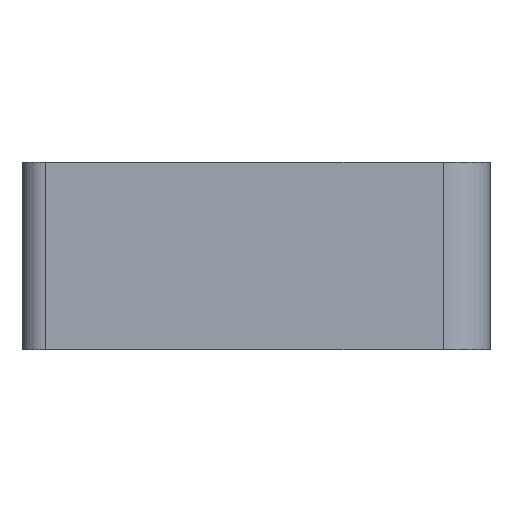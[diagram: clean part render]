
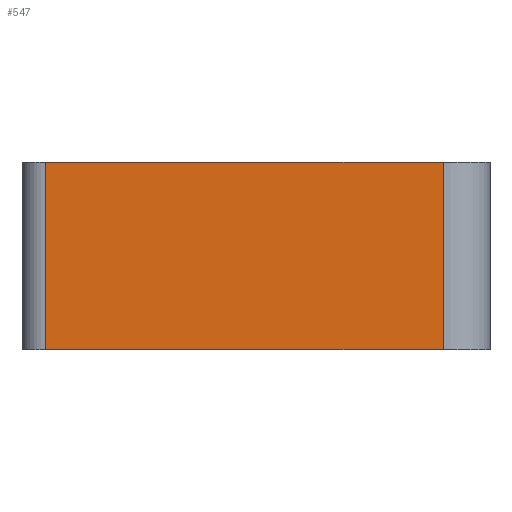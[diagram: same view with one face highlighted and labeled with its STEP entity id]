
A CAD part, left-side view. The second image highlights one B-rep face of the part: STEP entity #547.
In plain terms, the highlighted planar face has unit normal (-1, 0, 0).
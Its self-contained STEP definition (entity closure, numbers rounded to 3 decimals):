
#29=PLANE('',#612);
#55=FACE_OUTER_BOUND('',#88,.T.);
#88=EDGE_LOOP('',(#470,#471,#472,#473));
#116=LINE('',#841,#170);
#139=LINE('',#904,#193);
#149=LINE('',#926,#203);
#150=LINE('',#928,#204);
#170=VECTOR('',#674,10.);
#193=VECTOR('',#725,10.);
#203=VECTOR('',#751,10.);
#204=VECTOR('',#754,10.);
#252=VERTEX_POINT('',#838);
#253=VERTEX_POINT('',#840);
#278=VERTEX_POINT('',#901);
#279=VERTEX_POINT('',#903);
#309=EDGE_CURVE('',#252,#253,#116,.T.);
#341=EDGE_CURVE('',#279,#278,#139,.T.);
#354=EDGE_CURVE('',#253,#278,#149,.T.);
#355=EDGE_CURVE('',#279,#252,#150,.T.);
#470=ORIENTED_EDGE('',*,*,#354,.F.);
#471=ORIENTED_EDGE('',*,*,#309,.F.);
#472=ORIENTED_EDGE('',*,*,#355,.F.);
#473=ORIENTED_EDGE('',*,*,#341,.T.);
#547=ADVANCED_FACE('',(#55),#29,.T.);
#612=AXIS2_PLACEMENT_3D('',#927,#752,#753);
#674=DIRECTION('',(0.,1.,0.));
#725=DIRECTION('',(0.,1.,0.));
#751=DIRECTION('',(0.,0.,1.));
#752=DIRECTION('center_axis',(-1.,0.,0.));
#753=DIRECTION('ref_axis',(0.,0.,1.));
#754=DIRECTION('',(0.,0.,-1.));
#838=CARTESIAN_POINT('',(-15.,1.,-2.));
#840=CARTESIAN_POINT('',(-15.,9.5,-2.));
#841=CARTESIAN_POINT('',(-15.,0.,-2.));
#901=CARTESIAN_POINT('',(-15.,9.5,2.));
#903=CARTESIAN_POINT('',(-15.,1.,2.));
#904=CARTESIAN_POINT('',(-15.,0.,2.));
#926=CARTESIAN_POINT('',(-15.,9.5,-1.));
#927=CARTESIAN_POINT('Origin',(-15.,0.,-2.));
#928=CARTESIAN_POINT('',(-15.,1.,-1.));
